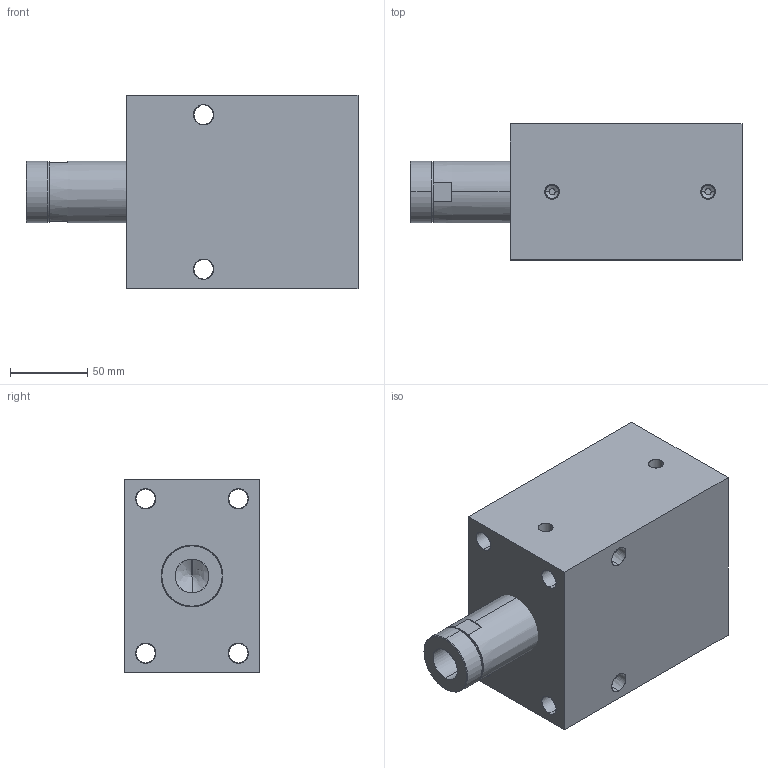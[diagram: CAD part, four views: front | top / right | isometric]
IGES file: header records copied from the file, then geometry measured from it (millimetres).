
Start section: SolidWorks IGES file using analytic representation for surfaces
Global section: file name: C:\Documents and Settings\rajib\Desktop\Rajib\BLOCK CYLINDER HYDRAULIC\0601-0606\IGS 0601-0608\0604.IGS; native system: SolidWorks 2007; preprocessor: SolidWorks 2007; author: rajib; date: 110121.105626; units: millimetre
Bounding box: 215 x 88 x 125 mm (x, y, z)
Surface area: 135544 mm2 (no closed solid volume)
Topology: 0 solids, 0 shells, 80 faces, 1904 edges, 1902 vertices
Faces by surface type: revolution 58, bspline 22
